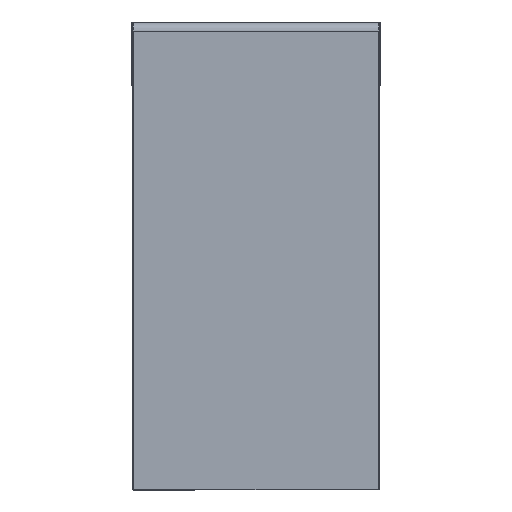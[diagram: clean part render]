
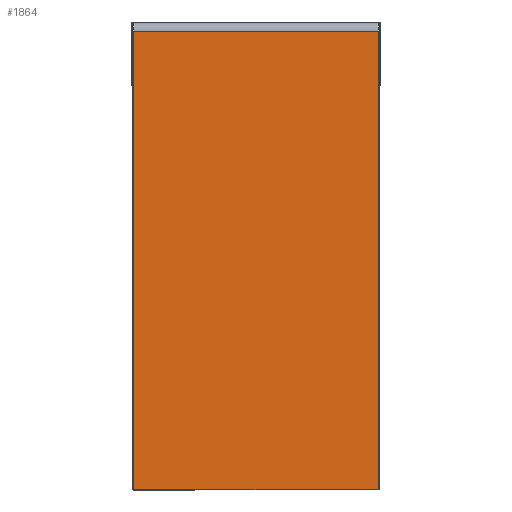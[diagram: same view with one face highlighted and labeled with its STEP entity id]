
A CAD part, top view. The second image highlights one B-rep face of the part: STEP entity #1864.
In plain terms, the highlighted planar face has unit normal (0, 0, 1).
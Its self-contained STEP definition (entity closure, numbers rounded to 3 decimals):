
#1663=CARTESIAN_POINT('',(6.,1266.97,15.));
#1664=VERTEX_POINT('',#1663);
#1694=CARTESIAN_POINT('',(6.,-4.,15.));
#1695=VERTEX_POINT('',#1694);
#1704=CARTESIAN_POINT('',(6.,1266.97,15.));
#1705=DIRECTION('',(0.0,-1.0,0.0));
#1706=VECTOR('',#1705,1270.97);
#1707=LINE('',#1704,#1706);
#1708=EDGE_CURVE('',#1664,#1695,#1707,.T.);
#1718=CARTESIAN_POINT('',(4.,-6.,15.));
#1719=VERTEX_POINT('',#1718);
#1728=CARTESIAN_POINT('',(4.,-4.,15.));
#1729=DIRECTION('',(0.,0.,-1.0));
#1730=DIRECTION('',(0.707,-0.707,0.));
#1731=AXIS2_PLACEMENT_3D('',#1728,#1729,#1730);
#1732=CIRCLE('',#1731,2.);
#1733=EDGE_CURVE('',#1695,#1719,#1732,.T.);
#1743=CARTESIAN_POINT('',(-675.,-6.,15.));
#1744=VERTEX_POINT('',#1743);
#1753=CARTESIAN_POINT('',(4.0,-6.,15.));
#1754=DIRECTION('',(-1.0,0.0,0.0));
#1755=VECTOR('',#1754,679.);
#1756=LINE('',#1753,#1755);
#1757=EDGE_CURVE('',#1719,#1744,#1756,.T.);
#1767=CARTESIAN_POINT('',(-677.,-4.,15.));
#1768=VERTEX_POINT('',#1767);
#1777=CARTESIAN_POINT('',(-675.,-4.,15.));
#1778=DIRECTION('',(0.,0.,-1.0));
#1779=DIRECTION('',(-0.707,-0.707,0.));
#1780=AXIS2_PLACEMENT_3D('',#1777,#1778,#1779);
#1781=CIRCLE('',#1780,2.);
#1782=EDGE_CURVE('',#1744,#1768,#1781,.T.);
#1792=CARTESIAN_POINT('',(-677.0,1266.97,15.));
#1793=VERTEX_POINT('',#1792);
#1802=CARTESIAN_POINT('',(-677.,-4.0,15.));
#1803=DIRECTION('',(0.0,1.0,0.0));
#1804=VECTOR('',#1803,1270.97);
#1805=LINE('',#1802,#1804);
#1806=EDGE_CURVE('',#1768,#1793,#1805,.T.);
#1846=CARTESIAN_POINT('',(-335.5,811.09,15.));
#1847=DIRECTION('',(0.0,0.0,1.0));
#1848=DIRECTION('',(0.0,1.0,0.0));
#1849=AXIS2_PLACEMENT_3D('',#1846,#1847,#1848);
#1850=PLANE('',#1849);
#1851=ORIENTED_EDGE('',*,*,#1806,.F.);
#1852=ORIENTED_EDGE('',*,*,#1782,.F.);
#1853=ORIENTED_EDGE('',*,*,#1757,.F.);
#1854=ORIENTED_EDGE('',*,*,#1733,.F.);
#1855=ORIENTED_EDGE('',*,*,#1708,.F.);
#1856=CARTESIAN_POINT('',(6.,1266.97,15.));
#1857=DIRECTION('',(-1.0,0.0,0.0));
#1858=VECTOR('',#1857,683.);
#1859=LINE('',#1856,#1858);
#1860=EDGE_CURVE('',#1664,#1793,#1859,.T.);
#1861=ORIENTED_EDGE('',*,*,#1860,.T.);
#1862=EDGE_LOOP('',(#1851,#1852,#1853,#1854,#1855,#1861));
#1863=FACE_OUTER_BOUND('',#1862,.T.);
#1864=ADVANCED_FACE('',(#1863),#1850,.T.);
